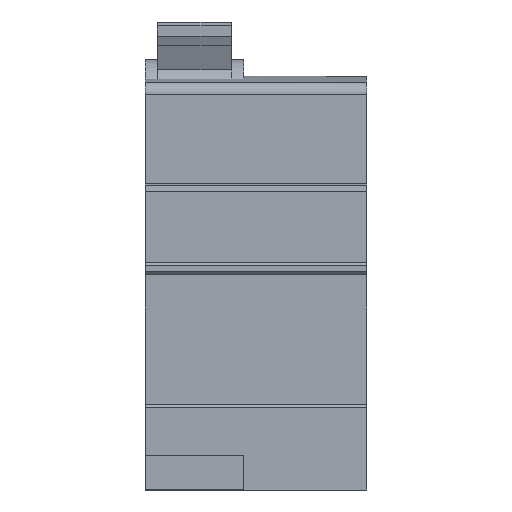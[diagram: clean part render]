
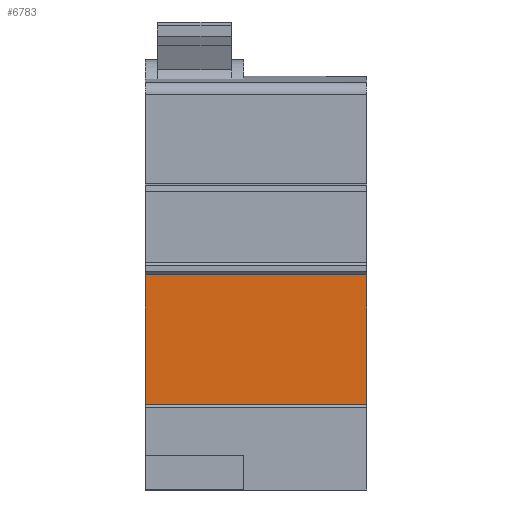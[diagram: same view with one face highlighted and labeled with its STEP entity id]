
A CAD part, front view. The second image highlights one B-rep face of the part: STEP entity #6783.
In plain terms, the highlighted planar face has unit normal (0, -1, 0).
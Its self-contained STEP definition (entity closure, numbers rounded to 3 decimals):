
#343=PLANE('',#7312);
#806=FACE_OUTER_BOUND('',#1269,.T.);
#1269=EDGE_LOOP('',(#5761,#5762,#5763,#5764));
#1490=LINE('',#9401,#2144);
#1758=LINE('',#11841,#2412);
#1816=LINE('',#11961,#2470);
#1817=LINE('',#11963,#2471);
#2144=VECTOR('',#7647,10.);
#2412=VECTOR('',#8503,10.);
#2470=VECTOR('',#8589,10.);
#2471=VECTOR('',#8592,10.);
#3009=VERTEX_POINT('',#9398);
#3010=VERTEX_POINT('',#9400);
#3364=VERTEX_POINT('',#11838);
#3365=VERTEX_POINT('',#11840);
#3668=EDGE_CURVE('',#3009,#3010,#1490,.T.);
#4186=EDGE_CURVE('',#3365,#3364,#1758,.T.);
#4247=EDGE_CURVE('',#3364,#3010,#1816,.T.);
#4248=EDGE_CURVE('',#3365,#3009,#1817,.T.);
#5761=ORIENTED_EDGE('',*,*,#4186,.T.);
#5762=ORIENTED_EDGE('',*,*,#4247,.T.);
#5763=ORIENTED_EDGE('',*,*,#3668,.F.);
#5764=ORIENTED_EDGE('',*,*,#4248,.F.);
#6783=ADVANCED_FACE('',(#806),#343,.T.);
#7312=AXIS2_PLACEMENT_3D('',#11962,#8590,#8591);
#7647=DIRECTION('',(0.,0.,-1.));
#8503=DIRECTION('',(0.,0.,-1.));
#8589=DIRECTION('',(1.,0.,0.));
#8590=DIRECTION('center_axis',(0.,-1.,0.));
#8591=DIRECTION('ref_axis',(0.,0.,-1.));
#8592=DIRECTION('',(1.,0.,0.));
#9398=CARTESIAN_POINT('',(36.,-45.241,5.4));
#9400=CARTESIAN_POINT('',(36.,-45.241,-15.712));
#9401=CARTESIAN_POINT('',(36.,-45.241,5.4));
#11838=CARTESIAN_POINT('',(0.,-45.241,-15.712));
#11840=CARTESIAN_POINT('',(0.,-45.241,5.4));
#11841=CARTESIAN_POINT('',(0.,-45.241,5.4));
#11961=CARTESIAN_POINT('',(0.,-45.241,-15.712));
#11962=CARTESIAN_POINT('Origin',(0.,-45.241,5.4));
#11963=CARTESIAN_POINT('',(0.,-45.241,5.4));
